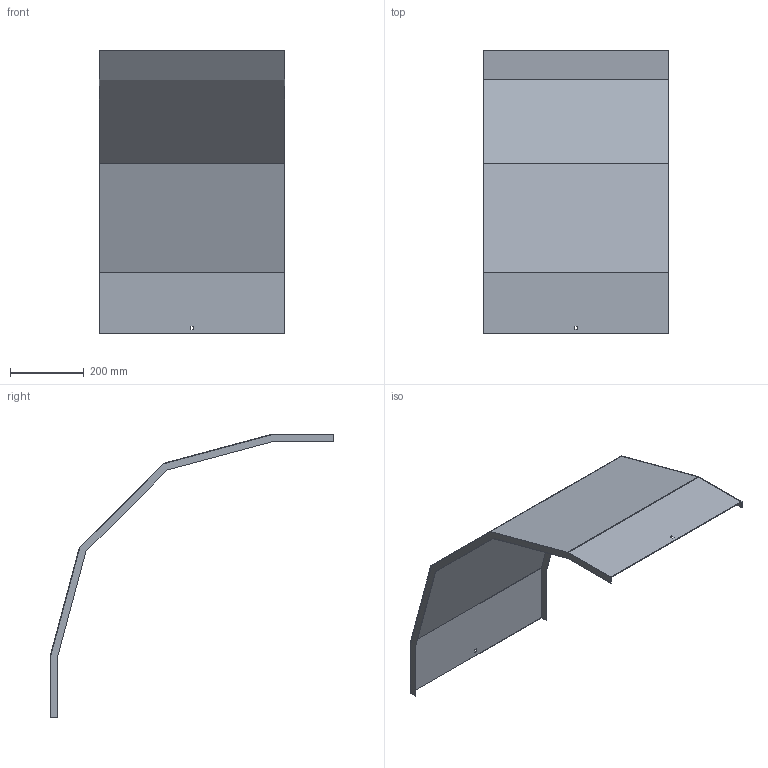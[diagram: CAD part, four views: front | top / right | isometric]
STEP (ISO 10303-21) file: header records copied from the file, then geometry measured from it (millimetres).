
FILE_DESCRIPTION (( 'STEP AP214' ), '1' );
FILE_NAME ('33N5D500.step', '2025-02-21T10:43:25', ( '' ), ( '' ), 'SwSTEP 2.0', 'SolidWorks 2023', '' );
FILE_SCHEMA (( 'AUTOMOTIVE_DESIGN' ));
Length unit declared in the file: millimetre
Products named in the file (1): 33N5D500
Bounding box: 503 x 769.82 x 769.82 mm (x, y, z)
Volume: 1025020.5 mm3; surface area: 1372118.7 mm2
Topology: 1 solids, 1 shells, 34 faces, 96 edges, 64 vertices
Faces by surface type: plane 34
Entity records: 1111 total; most frequent: CARTESIAN_POINT 195, ORIENTED_EDGE 192, DIRECTION 166, LINE 96, VECTOR 96, EDGE_CURVE 96, VERTEX_POINT 64, EDGE_LOOP 38
